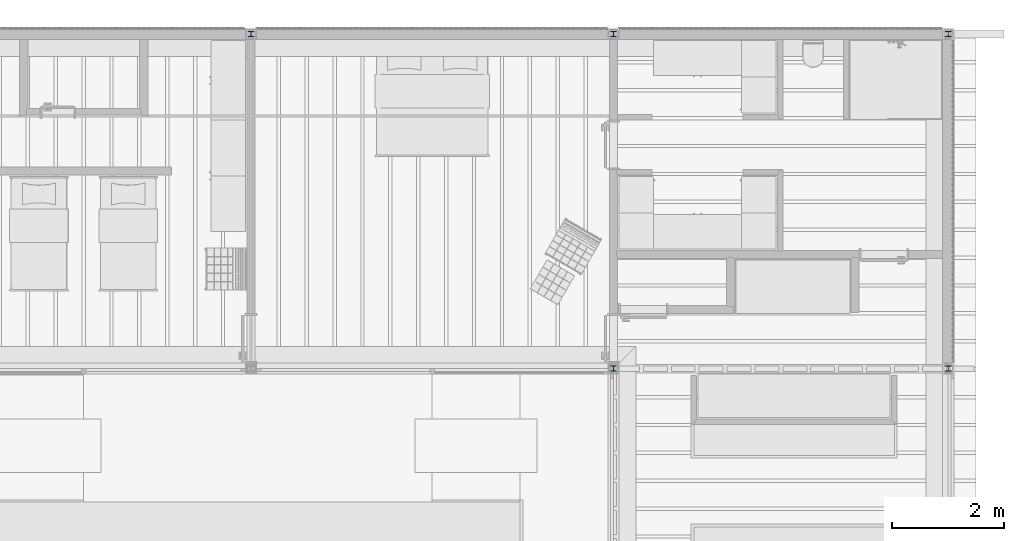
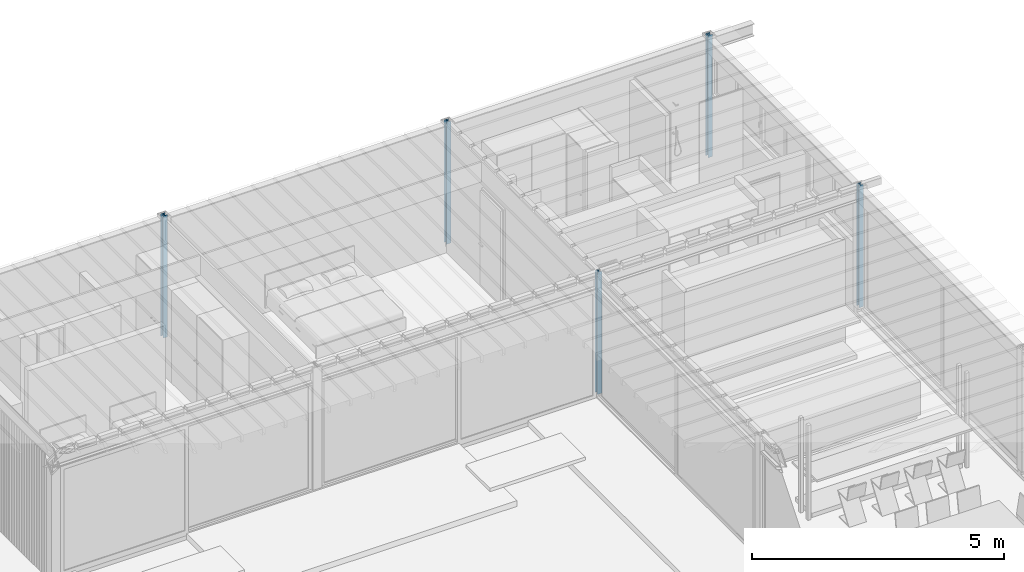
# One storey, part 12 of 28: 5 members.
"""IFC4X3_ADD2 building model written with IfcOpenShell, lengths in metres."""

from ifc_helpers import new_model, si_unit, direction, frame, origin_with_axes, origin_2d_with_axis, place, context, subcontext, project, spatial, i_section, extrude, material, element, save


model = new_model("IFC4X3_ADD2")

# Units and contexts
model_context = context("Model", 3, precision=1e-05, world=origin_with_axes(), true_north=direction((0.0, 1.0)))
body_context = subcontext(model_context, "Body", "Model", "MODEL_VIEW")
ifc_project = project(units=[si_unit("LENGTHUNIT", "METRE"), si_unit("AREAUNIT", "SQUARE_METRE"), si_unit("VOLUMEUNIT", "CUBIC_METRE"), si_unit("PLANEANGLEUNIT", "RADIAN"), si_unit("TIMEUNIT", "SECOND"), si_unit("MASSUNIT", "GRAM")], contexts=[model_context])

# Site, building, storey
site_placement = place(None, origin_with_axes())
site = spatial("IfcSite", under=ifc_project, at=site_placement, Name="Site", CompositionType="ELEMENT")
building_placement = place(site_placement, origin_with_axes())
building = spatial("IfcBuilding", under=site, at=building_placement, Name="Default Building")
storey_placement = place(building_placement, frame((0.0, 0.0, -0.08), z_axis=(0.0, 0.0, 1.0), x_axis=(1.0, 0.0, 0.0)))
storey = spatial("IfcBuildingStorey", under=building, at=storey_placement, Name="Gruendung", Elevation=-0.08)

# Members
ifc_material = material(Name="Default")
for number, where, z_axis, x_axis, name in (
    (1, (12.5, 22.0, 0.08), (0.0, 0.0, 1.0), (1.0, 0.0, 0.0), "Wide Flange"),
    (2, (19.0, 22.0, 0.08), (0.0, 0.0, 1.0), (1.0, 0.0, 0.0), "Wide Flange"),
    (3, (25.0, 22.0, 0.08), (0.0, 0.0, 1.0), (-1.0, 0.0, 0.0), "Wide Flange"),
    (4, (19.0, 16.0, 0.08), (0.0, 0.0, 1.0), (1.0, 0.0, 0.0), "Wide Flange"),
    (5, (25.0, 16.0, 0.08), (0.0, 0.0, 1.0), (-1.0, 0.0, 0.0), "Wide Flange"),
):
    element("IfcMember", number, at=place(storey_placement, frame(where, z_axis=z_axis, x_axis=x_axis)), inside=storey, material=ifc_material, Name=name, ObjectType="HEA 100", context=body_context, shape_type="SweptSolid", body=[
        extrude(i_section(OverallWidth=0.1, OverallDepth=0.096, WebThickness=0.005, FlangeThickness=0.008, FilletRadius=0.012, at=origin_2d_with_axis()), origin_with_axes(), (0.0, 0.0, 1.0), 2.96),
    ])

save(model, "model.ifc")
